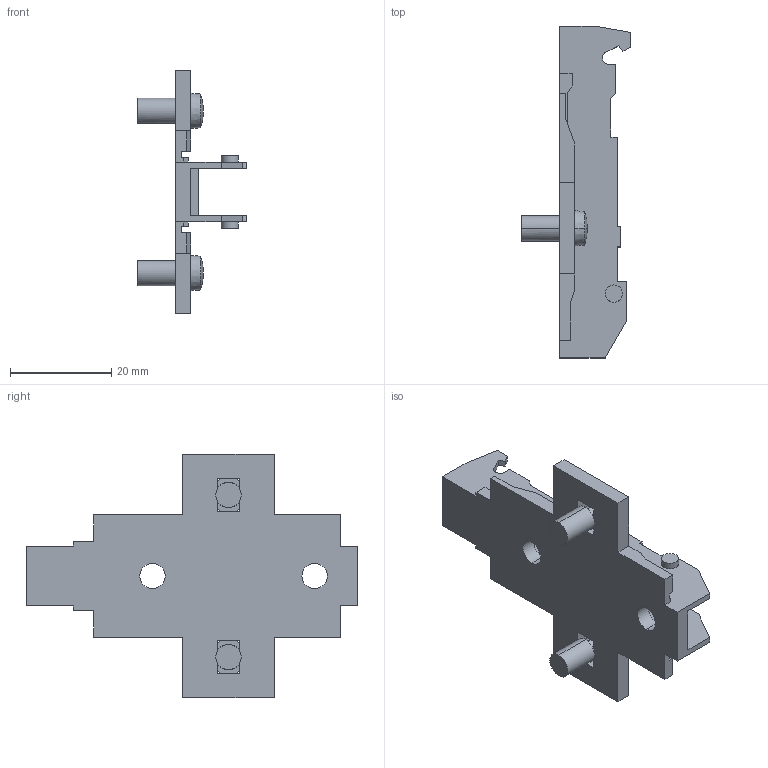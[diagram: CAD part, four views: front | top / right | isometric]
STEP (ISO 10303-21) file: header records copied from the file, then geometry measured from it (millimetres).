
FILE_DESCRIPTION (( 'STEP AP214' ), '1' );
FILE_NAME ('1D_Kreuzmontageplatte 37_32_5mm_Dübel_kurz_3,5.step', '2018-10-02T12:39:18', ( '' ), ( '' ), 'SwSTEP 2.0', 'SolidWorks 2017', '' );
FILE_SCHEMA (( 'AUTOMOTIVE_DESIGN' ));
Length unit declared in the file: millimetre
Products named in the file (1): 1D_Kreuzmontageplatte 37_32_5mm_Dübel_kurz_3,5
Bounding box: 21.5 x 65.5 x 48 mm (x, y, z)
Volume: 6716.8 mm3; surface area: 7391.4 mm2
Topology: 1 solids, 1 shells, 130 faces, 400 edges, 258 vertices
Faces by surface type: plane 100, cylinder 22, sphere 4, cone 4
Entity records: 4506 total; most frequent: ORIENTED_EDGE 800, CARTESIAN_POINT 789, DIRECTION 742, EDGE_CURVE 400, LINE 320, VECTOR 320, VERTEX_POINT 258, AXIS2_PLACEMENT_3D 211
